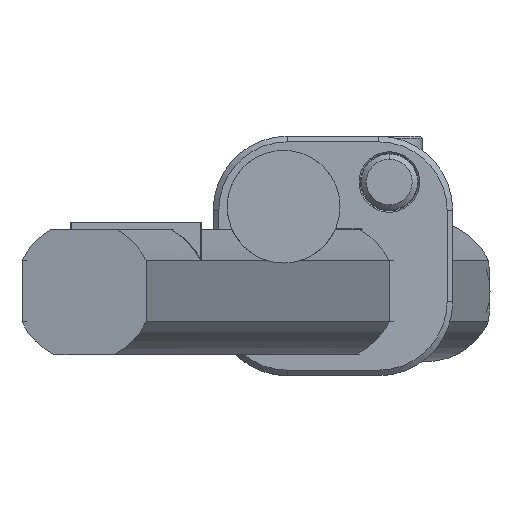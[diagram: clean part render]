
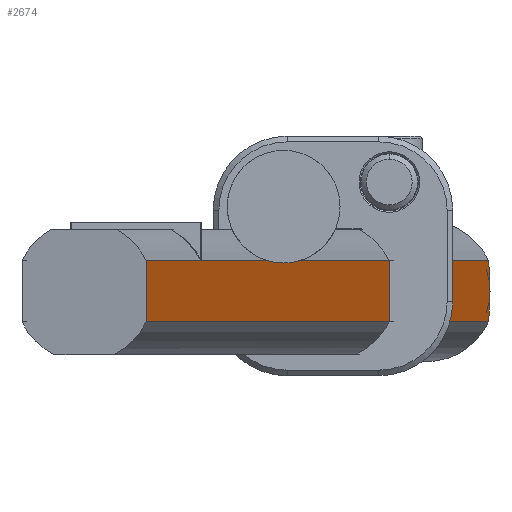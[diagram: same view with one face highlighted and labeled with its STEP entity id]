
A CAD part, front view. The second image highlights one B-rep face of the part: STEP entity #2674.
In plain terms, the highlighted planar face has unit normal (0.978, -0.208, 0) as drawn and (-1, 0, 0) by its records, which use the part's own axes.
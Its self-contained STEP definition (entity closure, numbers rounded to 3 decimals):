
#140 = VECTOR ( 'NONE', #1085, 1000. ) ;
#264 = EDGE_CURVE ( 'NONE', #5790, #5769, #6365, .T. ) ;
#577 = VERTEX_POINT ( 'NONE', #634 ) ;
#634 = CARTESIAN_POINT ( 'NONE',  ( -9., -197.548, -4.359 ) ) ;
#691 = CARTESIAN_POINT ( 'NONE',  ( -9., -234.798, -4.359 ) ) ;
#849 = ORIENTED_EDGE ( 'NONE', *, *, #4745, .F. ) ;
#864 = CARTESIAN_POINT ( 'NONE',  ( -9., -234.798, 4.359 ) ) ;
#1017 = CARTESIAN_POINT ( 'NONE',  ( -9., -0.701, 3.674 ) ) ;
#1077 = VECTOR ( 'NONE', #6236, 1000. ) ;
#1085 = DIRECTION ( 'NONE',  ( 0., 1., 0. ) ) ;
#1129 = CARTESIAN_POINT ( 'NONE',  ( -9., -197.036, -9.8 ) ) ;
#1208 = VECTOR ( 'NONE', #2272, 1000. ) ;
#1292 = FACE_OUTER_BOUND ( 'NONE', #4246, .T. ) ;
#1397 = DIRECTION ( 'NONE',  ( 0., 1., 0. ) ) ;
#1399 = CARTESIAN_POINT ( 'NONE',  ( -9., -0.851, -4.017 ) ) ;
#1439 = VERTEX_POINT ( 'NONE', #864 ) ;
#1486 = CARTESIAN_POINT ( 'NONE',  ( -9., -1., 4.359 ) ) ;
#1552 = CARTESIAN_POINT ( 'NONE',  ( -9., 0., 0.378 ) ) ;
#1562 = LINE ( 'NONE', #5524, #140 ) ;
#1839 = CARTESIAN_POINT ( 'NONE',  ( -9., 0., 0. ) ) ;
#1899 = ORIENTED_EDGE ( 'NONE', *, *, #5666, .T. ) ;
#2021 = EDGE_CURVE ( 'NONE', #2932, #5860, #3612, .T. ) ;
#2056 = ORIENTED_EDGE ( 'NONE', *, *, #2438, .F. ) ;
#2087 = CARTESIAN_POINT ( 'NONE',  ( -9., -275., 4.359 ) ) ;
#2181 = DIRECTION ( 'NONE',  ( 0., 0., 1. ) ) ;
#2252 = CARTESIAN_POINT ( 'NONE',  ( -9., 0., 20. ) ) ;
#2259 = VERTEX_POINT ( 'NONE', #3634 ) ;
#2272 = DIRECTION ( 'NONE',  ( 0., 0., 1. ) ) ;
#2277 = CARTESIAN_POINT ( 'NONE',  ( -9., -197.548, -9.8 ) ) ;
#2384 = CARTESIAN_POINT ( 'NONE',  ( -9., -0.361, -2.597 ) ) ;
#2438 = EDGE_CURVE ( 'NONE', #1439, #3188, #4422, .T. ) ;
#2514 = CARTESIAN_POINT ( 'NONE',  ( -9., -0.116, 1.499 ) ) ;
#2543 = CARTESIAN_POINT ( 'NONE',  ( -9., -0.447, 2.957 ) ) ;
#2606 = EDGE_CURVE ( 'NONE', #3188, #577, #1562, .T. ) ;
#2674 = ADVANCED_FACE ( 'NONE', ( #1292 ), #3285, .T. ) ;
#2891 = CARTESIAN_POINT ( 'NONE',  ( -9., 0., 0. ) ) ;
#2932 = VERTEX_POINT ( 'NONE', #3252 ) ;
#2946 = VECTOR ( 'NONE', #1397, 1000. ) ;
#2986 = VECTOR ( 'NONE', #4521, 1000. ) ;
#3147 = EDGE_CURVE ( 'NONE', #5860, #5790, #3853, .T. ) ;
#3188 = VERTEX_POINT ( 'NONE', #691 ) ;
#3206 = B_SPLINE_CURVE_WITH_KNOTS ( 'NONE', 3,
 ( #2891, #1552, #4858, #2514, #4413, #2543, #1017, #1486 ),
 .UNSPECIFIED., .F., .F.,
 ( 4, 2, 2, 4 ),
 ( 0.007, 0.008, 0.01, 0.012 ),
 .UNSPECIFIED. ) ;
#3252 = CARTESIAN_POINT ( 'NONE',  ( -9., -197.036, -9.8 ) ) ;
#3285 = PLANE ( 'NONE',  #5419 ) ;
#3303 = EDGE_CURVE ( 'NONE', #5200, #2932, #4282, .T. ) ;
#3308 = LINE ( 'NONE', #5626, #1208 ) ;
#3466 = LINE ( 'NONE', #2087, #2986 ) ;
#3467 = ORIENTED_EDGE ( 'NONE', *, *, #2021, .F. ) ;
#3612 = LINE ( 'NONE', #1129, #3980 ) ;
#3634 = CARTESIAN_POINT ( 'NONE',  ( -9., -1., 4.359 ) ) ;
#3767 = CARTESIAN_POINT ( 'NONE',  ( -9., -1., -4.359 ) ) ;
#3853 = LINE ( 'NONE', #5861, #2946 ) ;
#3967 = CARTESIAN_POINT ( 'NONE',  ( -9., -197.036, -4.359 ) ) ;
#3980 = VECTOR ( 'NONE', #4595, 1000. ) ;
#4089 = ORIENTED_EDGE ( 'NONE', *, *, #3303, .F. ) ;
#4246 = EDGE_LOOP ( 'NONE', ( #2056, #4968, #849, #4699, #5965, #3467, #4089, #1899, #6209 ) ) ;
#4282 = LINE ( 'NONE', #2277, #1077 ) ;
#4331 = CARTESIAN_POINT ( 'NONE',  ( -9., -0.469, -2.96 ) ) ;
#4410 = CARTESIAN_POINT ( 'NONE',  ( -9., -1., -4.359 ) ) ;
#4413 = CARTESIAN_POINT ( 'NONE',  ( -9., -0.185, 1.866 ) ) ;
#4422 = LINE ( 'NONE', #5323, #4776 ) ;
#4521 = DIRECTION ( 'NONE',  ( 0., -1., 0. ) ) ;
#4582 = CARTESIAN_POINT ( 'NONE',  ( -9., -197.548, -9.8 ) ) ;
#4595 = DIRECTION ( 'NONE',  ( 0., 0., 1. ) ) ;
#4699 = ORIENTED_EDGE ( 'NONE', *, *, #264, .F. ) ;
#4738 = CARTESIAN_POINT ( 'NONE',  ( -9., -0.096, -1.498 ) ) ;
#4745 = EDGE_CURVE ( 'NONE', #5769, #2259, #3206, .T. ) ;
#4776 = VECTOR ( 'NONE', #5930, 1000. ) ;
#4858 = CARTESIAN_POINT ( 'NONE',  ( -9., -0.024, 0.756 ) ) ;
#4968 = ORIENTED_EDGE ( 'NONE', *, *, #5164, .F. ) ;
#5158 = DIRECTION ( 'NONE',  ( -1., 0., 0. ) ) ;
#5164 = EDGE_CURVE ( 'NONE', #2259, #1439, #3466, .T. ) ;
#5200 = VERTEX_POINT ( 'NONE', #4582 ) ;
#5323 = CARTESIAN_POINT ( 'NONE',  ( -9., -234.798, 10. ) ) ;
#5419 = AXIS2_PLACEMENT_3D ( 'NONE', #2252, #5158, #2181 ) ;
#5524 = CARTESIAN_POINT ( 'NONE',  ( -9., -275., -4.359 ) ) ;
#5626 = CARTESIAN_POINT ( 'NONE',  ( -9., -197.548, -9.8 ) ) ;
#5666 = EDGE_CURVE ( 'NONE', #5200, #577, #3308, .T. ) ;
#5703 = CARTESIAN_POINT ( 'NONE',  ( -9., 0., 0. ) ) ;
#5769 = VERTEX_POINT ( 'NONE', #1839 ) ;
#5790 = VERTEX_POINT ( 'NONE', #4410 ) ;
#5793 = CARTESIAN_POINT ( 'NONE',  ( -9., -0.713, -3.669 ) ) ;
#5860 = VERTEX_POINT ( 'NONE', #3967 ) ;
#5861 = CARTESIAN_POINT ( 'NONE',  ( -9., -275., -4.359 ) ) ;
#5930 = DIRECTION ( 'NONE',  ( 0., 0., -1. ) ) ;
#5965 = ORIENTED_EDGE ( 'NONE', *, *, #3147, .F. ) ;
#6209 = ORIENTED_EDGE ( 'NONE', *, *, #2606, .F. ) ;
#6223 = CARTESIAN_POINT ( 'NONE',  ( -9., 0., -0.755 ) ) ;
#6236 = DIRECTION ( 'NONE',  ( 0., 1., 0. ) ) ;
#6365 = B_SPLINE_CURVE_WITH_KNOTS ( 'NONE', 3,
 ( #3767, #1399, #5793, #4331, #2384, #4738, #6223, #5703 ),
 .UNSPECIFIED., .F., .F.,
 ( 4, 2, 2, 4 ),
 ( 0.003, 0.004, 0.005, 0.007 ),
 .UNSPECIFIED. ) ;
